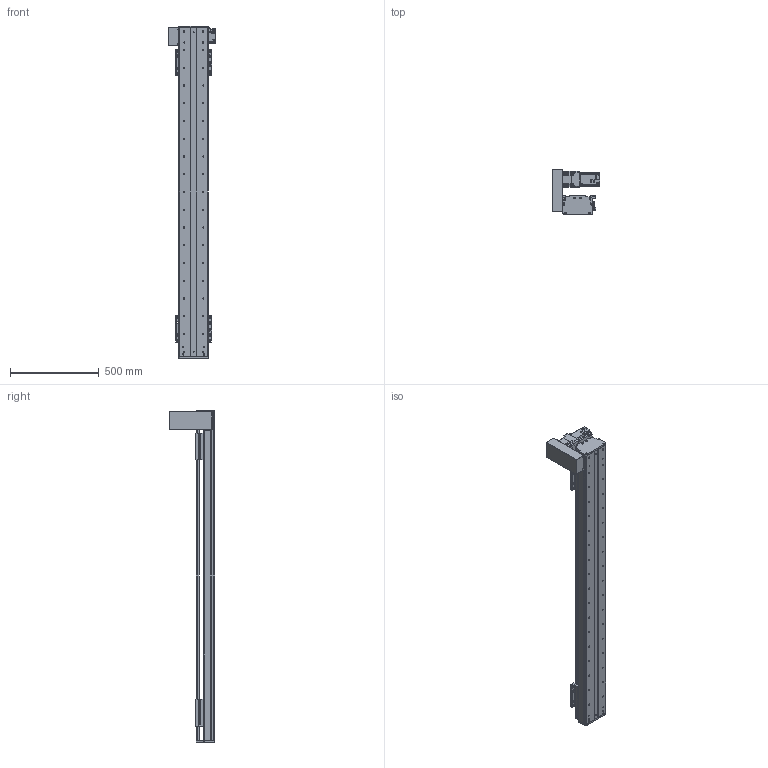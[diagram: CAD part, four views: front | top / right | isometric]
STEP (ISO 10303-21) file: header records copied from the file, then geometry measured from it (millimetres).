
FILE_DESCRIPTION(/* description */ (''),/* implementation_level */ '2;1');
FILE_NAME(/* name */ 'C:\Users\PC\Desktop\3D도면\STEP\DSB165-UL7G-W1500-R.stp',/* time_stamp */ '2018-06-25T15:08:37+09:00',/* author */ ('PC'),/* organization */ (''),/* preprocessor_version */ 'ST-DEVELOPER v16.5',/* originating_system */ 'Autodesk Inventor 2017',/* authorisation */ '');
FILE_SCHEMA (('AP203_CONFIGURATION_CONTROLLED_3D_DESIGN_OF_MECHANICAL_PARTS_AND_ASSEMBLIES_MIM_LF { 1 0 10303 203 3 1 4 }','AUTOMOTIVE_DESIGN { 1 0 10303 214 3 1 1 }'));
Length unit declared in the file: millimetre
Products named in the file (12): DSB165-L; DSR165-BASE_S; hg-kr73_; ab0901-p0401300102; 11-DBS165 BELT COVER; DBS165-COVER; DBS165-COVER_1; DBS165-UP COVER; DSR126-SENSOR DOG; pm-y65_step; SENSOR BRACKET(EE-SX674A); DBS165-TABLE(MSA20S)
Assembly tree (16 placements, depth 2):
  DSB165-L
    DSR165-BASE_S
    hg-kr73_
    ab0901-p0401300102
    11-DBS165 BELT COVER
    DBS165-COVER
    DBS165-COVER_1
    DBS165-UP COVER
    DSR126-SENSOR DOG
    pm-y65_step  x3
    SENSOR BRACKET(EE-SX674A)  x3
    DBS165-TABLE(MSA20S)  x2
Bounding box: 270 x 254 x 1870 mm (x, y, z)
Volume: 11152549.5 mm3; surface area: 2597123.7 mm2
Topology: 17 solids, 22 shells, 1699 faces, 4555 edges, 3000 vertices
Faces by surface type: plane 926, cylinder 635, cone 126, sphere 8, torus 4
Full cylindrical faces by diameter (mm): 2.459 x20, 3.5 x6, 4.134 x42, 4.5 x18, 5 x27, 5.5 x36, 5.9 x4, 6 x8, 6.6 x14, 6.647 x54, 6.8 x1, 7 x4, 7.6 x4, 8 x1, 8.4 x1, 8.5 x24, 8.7 x1, 9.5 x32, 11 x6, 14 x16, 19 x1, 22 x1, 24 x1, 25 x1, 28 x1, 67 x1, 70 x2, 80 x1
Entity records: 36109 total; most frequent: DIRECTION 6396, CARTESIAN_POINT 6175, ORIENTED_EDGE 5598, EDGE_CURVE 2804, AXIS2_PLACEMENT_3D 2368, VERTEX_POINT 2009, EDGE_LOOP 1795, LINE 1660
